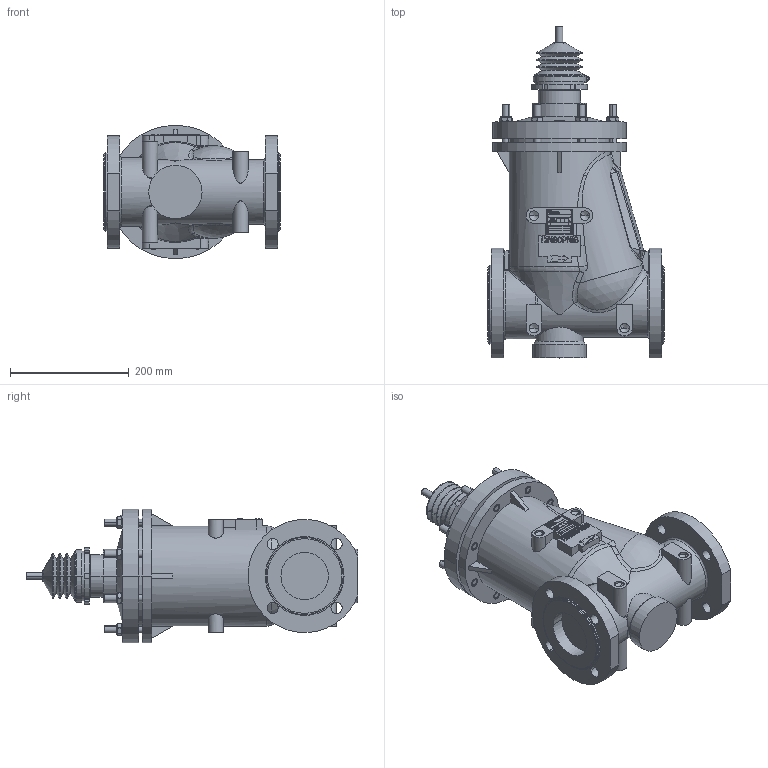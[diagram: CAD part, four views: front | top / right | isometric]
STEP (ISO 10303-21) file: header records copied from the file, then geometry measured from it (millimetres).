
FILE_DESCRIPTION((''),'2;1');
FILE_NAME('9560-00-5024_A_ASM','2014-04-08T',('SParmar1'),(''),'PRO/ENGINEER BY PARAMETRIC TECHNOLOGY CORPORATION, 2011040','PRO/ENGINEER BY PARAMETRIC TECHNOLOGY CORPORATION, 2011040','');
FILE_SCHEMA(('CONFIG_CONTROL_DESIGN'));
Products named in the file (6): 9567-15-7041; 9568-27-5105; 4188_11_1060; 4117-42-1044; M12_X_HEX_NUT; 9560-00-5024_A_ASM
Assembly tree (19 placements, depth 2):
  9560-00-5024_A_ASM
    9567-15-7041
    9568-27-5105
    4188_11_1060
    4117-42-1044  x8
    M12_X_HEX_NUT  x8
Bounding box: 298 x 560 x 225 mm (x, y, z)
Volume: 12011506 mm3; surface area: 695557.2 mm2
Topology: 20 solids, 22 shells, 2797 faces, 7597 edges, 4977 vertices
Faces by surface type: plane 2319, cylinder 238, cone 100, bspline 72, torus 60, sphere 8
Entity records: 88369 total; most frequent: CARTESIAN_POINT 21012, ORIENTED_EDGE 14510, DIRECTION 12796, EDGE_CURVE 7255, VECTOR 6448, LINE 6448, VERTEX_POINT 4781, AXIS2_PLACEMENT_3D 3174
